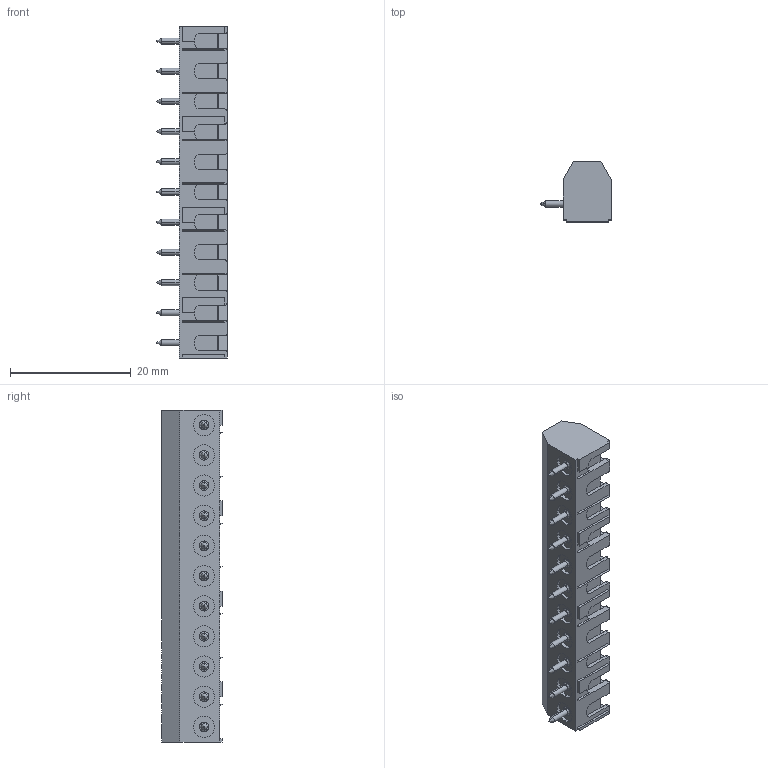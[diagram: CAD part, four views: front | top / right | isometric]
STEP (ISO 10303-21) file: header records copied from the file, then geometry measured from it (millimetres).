
FILE_DESCRIPTION (( 'STEP AP214' ), '1' );
FILE_NAME ('951-FB-11.STEP', '2008-03-12T05:04:13', ( ' ' ), ( '' ), 'SwSTEP 2.0', 'SolidWorks 2007', '' );
FILE_SCHEMA (( 'AUTOMOTIVE_DESIGN' ));
Length unit declared in the file: millimetre
Products named in the file (1): 951-FB-11
Bounding box: 11.7 x 10 x 55 mm (x, y, z)
Volume: 2974.4 mm3; surface area: 3253.8 mm2
Topology: 1 solids, 1 shells, 950 faces, 2771 edges, 1812 vertices
Faces by surface type: plane 628, cylinder 246, cone 54, bspline 22
Entity records: 33193 total; most frequent: CARTESIAN_POINT 7975, ORIENTED_EDGE 5542, DIRECTION 5014, EDGE_CURVE 2771, VECTOR 1904, LINE 1904, VERTEX_POINT 1812, AXIS2_PLACEMENT_3D 1555
